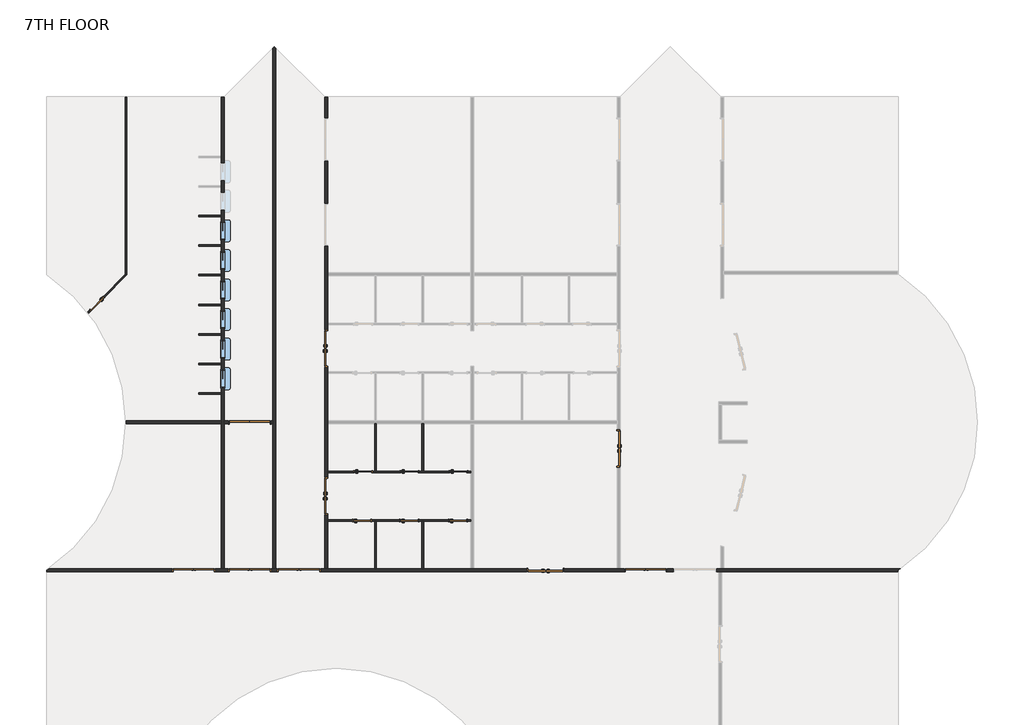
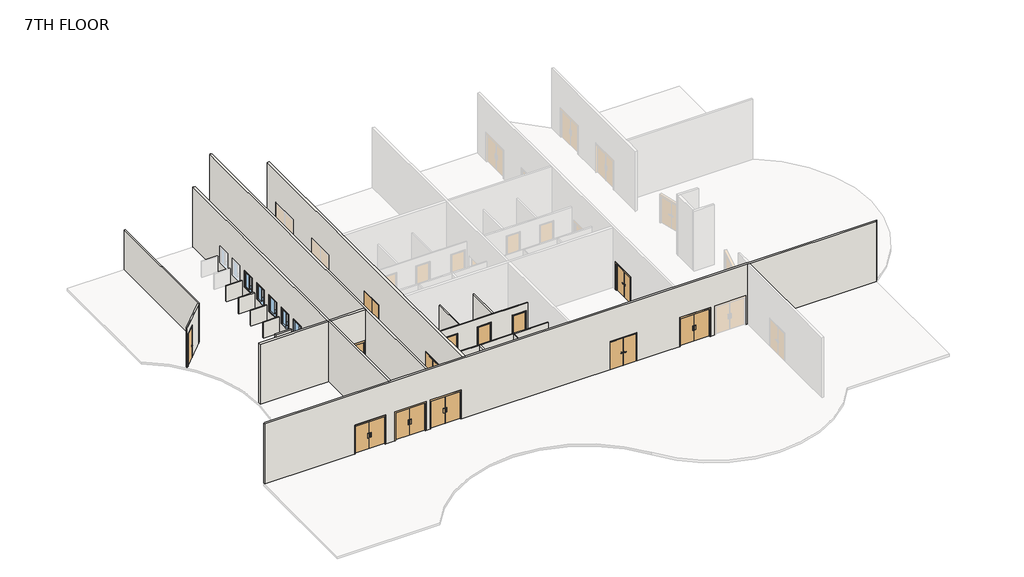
# One storey, part 1 of 2: 20 walls, 16 doors, 6 windows.
"""IFC4 building model written with IfcOpenShell, lengths in millimetres."""

from ifc_helpers import new_model, si_unit, point, frame, frame_2d, origin, place, context, project, spatial, polyline, circle_curve, trimmed, segment, composite_curve, outline, extrude, faceted_brep, transform, mapped, element, save
from ifc_brep_helpers import plane_surface, cylinder_surface, revolved_surface, advanced_brep
from components import door_2f250f70, door_0b13e4d9, door_b3a27a16, door_979b1b8c, door_f8b587be, pass_thru_4x3_19d81059

model = new_model("IFC4")

# Units and contexts
model_context = context("Model", 3, world=origin())
ifc_project = project(units=[si_unit("LENGTHUNIT", "METRE", prefix="MILLI")], contexts=[model_context])

# Site, building, storey
site = spatial("IfcSite", under=ifc_project)
building = spatial("IfcBuilding", under=site)
storey = spatial("IfcBuildingStorey", under=building, Name="7TH FLOOR", Elevation=32004.0)

# Doors
placement = place(None, origin())
door_shape = door_2f250f70(model_context)
element("IfcDoor", 1, ObjectType="Door-Passage-Double-Flush : 72\" x 82\"", at=placement, inside=storey, context=model_context, shape_type="MappedRepresentation", body=[
    mapped(door_shape, transform((14556.3400257, 13109.575, 32004.0), x_axis=(0.0, 1.0, 0.0), y_axis=(-1.0, 0.0, 0.0), z_axis=(0.0, 0.0, 1.0))),
])
element("IfcDoor", 2, ObjectType="Door-Passage-Double-Flush : 72\" x 82\"", at=placement, inside=storey, context=model_context, shape_type="MappedRepresentation", body=[
    mapped(door_shape, transform((14556.3400257, 20729.575, 32004.0), x_axis=(0.0, 1.0, 0.0), y_axis=(-1.0, 0.0, 0.0), z_axis=(0.0, 0.0, 1.0))),
])
element("IfcDoor", 3, ObjectType="Door-Passage-Double-Flush : 72\" x 82\"", at=placement, inside=storey, context=model_context, shape_type="MappedRepresentation", body=[
    mapped(door_shape, transform((25872.8337757, 9305.925, 32004.0), x_axis=(-1.0, 0.0, 0.0), y_axis=(0.0, -1.0, 0.0), z_axis=(0.0, 0.0, 1.0))),
])
element("IfcDoor", 4, ObjectType="Door-Passage-Double-Flush : 72\" x 82\"", at=placement, inside=storey, context=model_context, shape_type="MappedRepresentation", body=[
    mapped(door_shape, transform((29628.0650257, 15571.7875, 32004.0), x_axis=(0.0, -1.0, 0.0), y_axis=(1.0, 0.0, 0.0), z_axis=(0.0, 0.0, 1.0))),
])
door_2_shape = door_0b13e4d9(model_context)
element("IfcDoor", 5, ObjectType="Door-Passage-Double-Flush-Dbl_Acting : 84\" x 84\"", at=placement, inside=storey, context=model_context, shape_type="MappedRepresentation", body=[
    mapped(door_2_shape, transform((13151.4025257, 9293.225, 32004.0), x_axis=(-1.0, 0.0, 0.0), y_axis=(0.0, -1.0, 0.0), z_axis=(0.0, 0.0, 1.0))),
])
door_3_shape = door_b3a27a16(model_context)
element("IfcDoor", 6, ObjectType="Door-Passage-Double-Flush-Dbl_Acting : 84\" x 84\"", at=placement, inside=storey, context=model_context, shape_type="MappedRepresentation", body=[
    mapped(door_3_shape, transform((31033.0025257, 9293.225, 32004.0), x_axis=(1.0, 0.0, 0.0), y_axis=(0.0, 1.0, 0.0), z_axis=(0.0, 0.0, 1.0))),
])
element("IfcDoor", 7, ObjectType="Door-Passage-Double-Flush-Dbl_Acting : 84\" x 84\"", at=placement, inside=storey, context=model_context, shape_type="MappedRepresentation", body=[
    mapped(door_3_shape, transform((10620.375, 9293.225, 32004.0), x_axis=(1.0, 0.0, 0.0), y_axis=(0.0, 1.0, 0.0), z_axis=(0.0, 0.0, 1.0))),
])
element("IfcDoor", 8, ObjectType="Door-Passage-Double-Flush-Dbl_Acting : 84\" x 84\"", at=placement, inside=storey, context=model_context, shape_type="MappedRepresentation", body=[
    mapped(door_3_shape, transform((7730.5724743, 9293.225, 32004.0), x_axis=(1.0, 0.0, 0.0), y_axis=(0.0, 1.0, 0.0), z_axis=(0.0, 0.0, 1.0))),
])
element("IfcDoor", 9, ObjectType="Door-Passage-Double-Flush-Dbl_Acting : 84\" x 84\"", at=placement, inside=storey, context=model_context, shape_type="MappedRepresentation", body=[
    mapped(door_3_shape, transform((10620.375, 16913.225, 32004.0), x_axis=(1.0, 0.0, 0.0), y_axis=(0.0, 1.0, 0.0), z_axis=(0.0, 0.0, 1.0))),
])
door_4_shape = door_979b1b8c(model_context)
element("IfcDoor", 10, ObjectType="Door-Passage-Single-Flush : 36\" x 96\"", at=placement, inside=storey, context=model_context, shape_type="MappedRepresentation", body=[
    mapped(door_4_shape, transform((16456.5775257, 14357.35, 32004.0), x_axis=(1.0, 0.0, 0.0), y_axis=(0.0, 1.0, 0.0), z_axis=(0.0, 0.0, 1.0))),
])
element("IfcDoor", 11, ObjectType="Door-Passage-Single-Flush : 36\" x 96\"", at=placement, inside=storey, context=model_context, shape_type="MappedRepresentation", body=[
    mapped(door_4_shape, transform((18855.2900257, 14357.35, 32004.0), x_axis=(1.0, 0.0, 0.0), y_axis=(0.0, 1.0, 0.0), z_axis=(0.0, 0.0, 1.0))),
])
element("IfcDoor", 12, ObjectType="Door-Passage-Single-Flush : 36\" x 96\"", at=placement, inside=storey, context=model_context, shape_type="MappedRepresentation", body=[
    mapped(door_4_shape, transform((21373.0650257, 14357.35, 32004.0), x_axis=(1.0, 0.0, 0.0), y_axis=(0.0, 1.0, 0.0), z_axis=(0.0, 0.0, 1.0))),
])
element("IfcDoor", 13, ObjectType="Door-Passage-Single-Flush : 36\" x 96\"", at=placement, inside=storey, context=model_context, shape_type="MappedRepresentation", body=[
    mapped(door_4_shape, transform((2731.3607977, 23031.2061406, 32004.0), x_axis=(-0.7071067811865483, -0.7071067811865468, 0.0), y_axis=(0.7071067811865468, -0.7071067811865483, 0.0), z_axis=(0.0, 0.0, 1.0))),
])
door_5_shape = door_f8b587be(model_context)
element("IfcDoor", 14, ObjectType="Door-Passage-Single-Flush : 36\" x 96\"", at=placement, inside=storey, context=model_context, shape_type="MappedRepresentation", body=[
    mapped(door_5_shape, transform((16405.7775257, 11861.8, 32004.0), x_axis=(1.0, 0.0, 0.0), y_axis=(0.0, 1.0, 0.0), z_axis=(0.0, 0.0, 1.0))),
])
element("IfcDoor", 15, ObjectType="Door-Passage-Single-Flush : 36\" x 96\"", at=placement, inside=storey, context=model_context, shape_type="MappedRepresentation", body=[
    mapped(door_5_shape, transform((18836.2400257, 11861.8, 32004.0), x_axis=(1.0, 0.0, 0.0), y_axis=(0.0, 1.0, 0.0), z_axis=(0.0, 0.0, 1.0))),
])
element("IfcDoor", 16, ObjectType="Door-Passage-Single-Flush : 36\" x 96\"", at=placement, inside=storey, context=model_context, shape_type="MappedRepresentation", body=[
    mapped(door_5_shape, transform((21354.0150257, 11861.8, 32004.0), x_axis=(1.0, 0.0, 0.0), y_axis=(0.0, 1.0, 0.0), z_axis=(0.0, 0.0, 1.0))),
])

# Walls
element("IfcWall", 17, ObjectType="SYR_INT_ONE_HOUR", at=placement, inside=storey, context=model_context, shape_type="SweptSolid", body=[
    extrude(outline(polyline([(17066.1775257, 14403.3875), (17066.1775257, 16841.7875), (17145.5525257, 16841.7875), (17145.5525257, 14403.3875), (17066.1775257, 14403.3875)])), frame((0.0, 0.0, 32004.0), z_axis=(0.0, 0.0, 1.0), x_axis=(1.0, 0.0, 0.0)), (0.0, 0.0, 1.0), 3048.0),
])
element("IfcWall", 18, ObjectType="SYR_INT_ONE_HOUR", at=placement, inside=storey, context=model_context, shape_type="SweptSolid", body=[
    extrude(outline(polyline([(19576.0150257, 11815.7625), (19576.0150257, 9377.3625), (19496.6400257, 9377.3625), (19496.6400257, 11815.7625), (19576.0150257, 11815.7625)])), frame((0.0, 0.0, 32004.0), z_axis=(0.0, 0.0, 1.0), x_axis=(1.0, 0.0, 0.0)), (0.0, 0.0, 1.0), 3048.0),
])
element("IfcWall", 19, ObjectType="SYR_INT_ONE_HOUR", at=placement, inside=storey, context=model_context, shape_type="Brep", body=[
    faceted_brep([(14627.7775257, 14403.3875, 35052.0), (17066.1775257, 14403.3875, 35052.0), (17145.5525257, 14403.3875, 35052.0), (19496.6400257, 14403.3875, 35052.0), (19576.0150257, 14403.3875, 35052.0), (22014.4150257, 14403.3875, 35052.0), (22014.4150257, 14403.3875, 32004.0), (21862.0150257, 14403.3875, 32004.0), (21862.0150257, 14403.3875, 34474.15), (20884.1150257, 14403.3875, 34474.15), (20884.1150257, 14403.3875, 32004.0), (19576.0150257, 14403.3875, 32004.0), (19496.6400257, 14403.3875, 32004.0), (19344.2400257, 14403.3875, 32004.0), (19344.2400257, 14403.3875, 34474.15), (18366.3400257, 14403.3875, 34474.15), (18366.3400257, 14403.3875, 32004.0), (17145.5525257, 14403.3875, 32004.0), (17066.1775257, 14403.3875, 32004.0), (16945.5275257, 14403.3875, 32004.0), (16945.5275257, 14403.3875, 34474.15), (15967.6275257, 14403.3875, 34474.15), (15967.6275257, 14403.3875, 32004.0), (14627.7775257, 14403.3875, 32004.0), (22014.4150257, 14324.0125, 35052.0), (14627.7775257, 14324.0125, 35052.0), (14627.7775257, 14324.0125, 32004.0), (15967.6275257, 14324.0125, 32004.0), (15967.6275257, 14324.0125, 34474.15), (16945.5275257, 14324.0125, 34474.15), (16945.5275257, 14324.0125, 32004.0), (18366.3400257, 14324.0125, 32004.0), (18366.3400257, 14324.0125, 34474.15), (19344.2400257, 14324.0125, 34474.15), (19344.2400257, 14324.0125, 32004.0), (20884.1150257, 14324.0125, 32004.0), (20884.1150257, 14324.0125, 34474.15), (21862.0150257, 14324.0125, 34474.15), (21862.0150257, 14324.0125, 32004.0), (22014.4150257, 14324.0125, 32004.0)], [[[0, 1, 2, 3, 4, 5, 6, 7, 8, 9, 10, 11, 12, 13, 14, 15, 16, 17, 18, 19, 20, 21, 22, 23]], [[24, 25, 26, 27, 28, 29, 30, 31, 32, 33, 34, 35, 36, 37, 38, 39]], [[6, 39, 38, 7]], [[26, 23, 22, 27]], [[30, 19, 18, 17, 16, 31]], [[34, 13, 12, 11, 10, 35]], [[5, 4, 3, 2, 1, 0, 25, 24]], [[0, 23, 26, 25]], [[6, 5, 24, 39]], [[29, 20, 19, 30]], [[20, 29, 28, 21]], [[21, 28, 27, 22]], [[14, 13, 34, 33]], [[15, 14, 33, 32]], [[16, 15, 32, 31]], [[37, 8, 7, 38]], [[8, 37, 36, 9]], [[9, 36, 35, 10]]]),
])
element("IfcWall", 20, ObjectType="SYR_INT_ONE_HOUR", at=placement, inside=storey, context=model_context, shape_type="Brep", body=[
    faceted_brep([(14627.7775257, 11895.1375, 35052.0), (22014.4150257, 11895.1375, 35052.0), (22014.4150257, 11895.1375, 32004.0), (21842.9650257, 11895.1375, 32004.0), (21842.9650257, 11895.1375, 34474.15), (20865.0650257, 11895.1375, 34474.15), (20865.0650257, 11895.1375, 32004.0), (19325.1900257, 11895.1375, 32004.0), (19325.1900257, 11895.1375, 34474.15), (18347.2900257, 11895.1375, 34474.15), (18347.2900257, 11895.1375, 32004.0), (16894.7275257, 11895.1375, 32004.0), (16894.7275257, 11895.1375, 34474.15), (15916.8275257, 11895.1375, 34474.15), (15916.8275257, 11895.1375, 32004.0), (14627.7775257, 11895.1375, 32004.0), (22014.4150257, 11815.7625, 35052.0), (19576.0150257, 11815.7625, 35052.0), (19496.6400257, 11815.7625, 35052.0), (17145.5525257, 11815.7625, 35052.0), (17066.1775257, 11815.7625, 35052.0), (14627.7775257, 11815.7625, 35052.0), (14627.7775257, 11815.7625, 32004.0), (15916.8275257, 11815.7625, 32004.0), (15916.8275257, 11815.7625, 34474.15), (16894.7275257, 11815.7625, 34474.15), (16894.7275257, 11815.7625, 32004.0), (17066.1775257, 11815.7625, 32004.0), (17145.5525257, 11815.7625, 32004.0), (18347.2900257, 11815.7625, 32004.0), (18347.2900257, 11815.7625, 34474.15), (19325.1900257, 11815.7625, 34474.15), (19325.1900257, 11815.7625, 32004.0), (19496.6400257, 11815.7625, 32004.0), (19576.0150257, 11815.7625, 32004.0), (20865.0650257, 11815.7625, 32004.0), (20865.0650257, 11815.7625, 34474.15), (21842.9650257, 11815.7625, 34474.15), (21842.9650257, 11815.7625, 32004.0), (22014.4150257, 11815.7625, 32004.0)], [[[0, 1, 2, 3, 4, 5, 6, 7, 8, 9, 10, 11, 12, 13, 14, 15]], [[16, 17, 18, 19, 20, 21, 22, 23, 24, 25, 26, 27, 28, 29, 30, 31, 32, 33, 34, 35, 36, 37, 38, 39]], [[2, 39, 38, 3]], [[22, 15, 14, 23]], [[26, 11, 10, 29, 28, 27]], [[32, 7, 6, 35, 34, 33]], [[1, 0, 21, 20, 19, 18, 17, 16]], [[0, 15, 22, 21]], [[2, 1, 16, 39]], [[25, 12, 11, 26]], [[12, 25, 24, 13]], [[13, 24, 23, 14]], [[31, 8, 7, 32]], [[8, 31, 30, 9]], [[9, 30, 29, 10]], [[37, 4, 3, 38]], [[4, 37, 36, 5]], [[5, 36, 35, 6]]]),
])
element("IfcWall", 21, ObjectType="SYR_INT_ONE_HOUR", at=placement, inside=storey, context=model_context, shape_type="SweptSolid", body=[
    extrude(outline(polyline([(17066.1775257, 9377.3625), (17066.1775257, 11815.7625), (17145.5525257, 11815.7625), (17145.5525257, 9377.3625), (17066.1775257, 9377.3625)])), frame((0.0, 0.0, 32004.0), z_axis=(0.0, 0.0, 1.0), x_axis=(1.0, 0.0, 0.0)), (0.0, 0.0, 1.0), 3048.0),
])
element("IfcWall", 22, ObjectType="SYR_INT_ONE_HOUR", at=placement, inside=storey, context=model_context, shape_type="SweptSolid", body=[
    extrude(outline(polyline([(19576.0150257, 16841.7875), (19576.0150257, 14403.3875), (19496.6400257, 14403.3875), (19496.6400257, 16841.7875), (19576.0150257, 16841.7875)])), frame((0.0, 0.0, 32004.0), z_axis=(0.0, 0.0, 1.0), x_axis=(1.0, 0.0, 0.0)), (0.0, 0.0, 1.0), 3048.0),
])
element("IfcWall", 23, ObjectType="SYR_INT_ONE_HOUR", at=placement, inside=storey, context=model_context, shape_type="SweptSolid", body=[
    extrude(outline(polyline([(7979.2710938, 18443.575), (9144.0, 18443.575), (9144.0, 18364.2), (7979.2710938, 18364.2), (7979.2710938, 18443.575)])), frame((0.0, 0.0, 32004.0), z_axis=(0.0, 0.0, 1.0), x_axis=(1.0, 0.0, 0.0)), (0.0, 0.0, 1.0), 1219.2),
])
element("IfcWall", 24, ObjectType="SYR_INT_ONE_HOUR", at=placement, inside=storey, context=model_context, shape_type="SweptSolid", body=[
    extrude(outline(polyline([(7979.2710938, 19967.575), (9144.0, 19967.575), (9144.0, 19888.2), (7979.2710938, 19888.2), (7979.2710938, 19967.575)])), frame((0.0, 0.0, 32004.0), z_axis=(0.0, 0.0, 1.0), x_axis=(1.0, 0.0, 0.0)), (0.0, 0.0, 1.0), 1219.2),
])
element("IfcWall", 25, ObjectType="SYR_INT_ONE_HOUR", at=placement, inside=storey, context=model_context, shape_type="SweptSolid", body=[
    extrude(outline(polyline([(7979.2710938, 21491.575), (9144.0, 21491.575), (9144.0, 21412.2), (7979.2710938, 21412.2), (7979.2710938, 21491.575)])), frame((0.0, 0.0, 32004.0), z_axis=(0.0, 0.0, 1.0), x_axis=(1.0, 0.0, 0.0)), (0.0, 0.0, 1.0), 1219.2),
])
element("IfcWall", 26, ObjectType="SYR_INT_ONE_HOUR", at=placement, inside=storey, context=model_context, shape_type="SweptSolid", body=[
    extrude(outline(polyline([(7979.2710938, 23015.575), (9144.0, 23015.575), (9144.0, 22936.2), (7979.2710938, 22936.2), (7979.2710938, 23015.575)])), frame((0.0, 0.0, 32004.0), z_axis=(0.0, 0.0, 1.0), x_axis=(1.0, 0.0, 0.0)), (0.0, 0.0, 1.0), 1219.2),
])
element("IfcWall", 27, ObjectType="SYR_INT_ONE_HOUR", at=placement, inside=storey, context=model_context, shape_type="SweptSolid", body=[
    extrude(outline(polyline([(7979.2710938, 24539.575), (9144.0, 24539.575), (9144.0, 24460.2), (7979.2710938, 24460.2), (7979.2710938, 24539.575)])), frame((0.0, 0.0, 32004.0), z_axis=(0.0, 0.0, 1.0), x_axis=(1.0, 0.0, 0.0)), (0.0, 0.0, 1.0), 1219.2),
])
element("IfcWall", 28, ObjectType="SYR_INT_ONE_HOUR", at=placement, inside=storey, context=model_context, shape_type="SweptSolid", body=[
    extrude(outline(polyline([(7979.2710938, 26063.575), (9144.0, 26063.575), (9144.0, 25984.2), (7979.2710938, 25984.2), (7979.2710938, 26063.575)])), frame((0.0, 0.0, 32004.0), z_axis=(0.0, 0.0, 1.0), x_axis=(1.0, 0.0, 0.0)), (0.0, 0.0, 1.0), 1219.2),
])
element("IfcWall", 29, ObjectType="SYR_INT_ONE_HOUR", at=placement, inside=storey, context=model_context, shape_type="SweptSolid", body=[
    extrude(outline(polyline([(7979.2710938, 27587.575), (9144.0, 27587.575), (9144.0, 27508.2), (7979.2710938, 27508.2), (7979.2710938, 27587.575)])), frame((0.0, 0.0, 32004.0), z_axis=(0.0, 0.0, 1.0), x_axis=(1.0, 0.0, 0.0)), (0.0, 0.0, 1.0), 1219.2),
])
element("IfcWall", 30, ObjectType="SYR_INT_ONE_HOUR", at=placement, inside=storey, context=model_context, shape_type="Brep", body=[
    faceted_brep([(4209.0224132, 33683.575, 32004.0), (4209.0224132, 24556.0141008, 32004.0), (4209.0224132, 24443.7608992, 32004.0), (4209.0224132, 24443.7608992, 35052.0), (4209.0224132, 24556.0141008, 35052.0), (4209.0224132, 33683.575, 35052.0), (4288.3974132, 33683.575, 32004.0), (4288.3974132, 33683.575, 35052.0), (4288.3974132, 24523.1358992, 35052.0), (4288.3974132, 24523.1358992, 32004.0)], [[[0, 1, 2, 3, 4, 5]], [[6, 7, 8, 9]], [[2, 1, 0, 6, 9]], [[5, 4, 3, 8, 7]], [[3, 2, 9, 8]], [[0, 5, 7, 6]]]),
])
element("IfcWall", 31, ObjectType="SYR_INT_ONE_HOUR", at=placement, inside=storey, context=model_context, shape_type="AdvancedBrep", body=[
    advanced_brep(
    [(2260.5955581, 22607.5872456, 35052.0), (4209.0224132, 24556.0141008, 35052.0), (4209.0224132, 24556.0141008, 32004.0), (3053.527486, 23400.5191735, 32004.0), (3053.527486, 23400.5191735, 34474.15), (2362.0477647, 22709.0394522, 34474.15), (2362.0477647, 22709.0394522, 32004.0), (2260.5955581, 22607.5872456, 32004.0), (4209.0224132, 24443.7608992, 35052.0), (2310.04482, 22544.783306, 35052.0), (2310.04482, 22544.783306, 32004.0), (2418.1743655, 22652.9128515, 32004.0), (2418.1743655, 22652.9128515, 34474.15), (3109.6540868, 23344.3925728, 34474.15), (3109.6540868, 23344.3925728, 32004.0), (4209.0224132, 24443.7608992, 32004.0)],
    [
        (0, 1),
        (1, 2),
        (2, 3),
        (3, 4),
        (4, 5),
        (5, 6),
        (6, 7),
        (7, 0),
        (8, 9),
        (9, 10),
        (10, 11),
        (11, 12),
        (12, 13),
        (13, 14),
        (14, 15),
        (15, 8),
        (2, 15),
        (14, 3),
        (10, 7, circle_curve(frame((-4898.9611805, 16919.575, 32004.0), z_axis=(0.0, 0.0, 1.0), x_axis=(1.0, 0.0, 0.0)), 9144.0)),
        (6, 11),
        (0, 9, circle_curve(frame((-4898.9611805, 16919.575, 35052.0), z_axis=(0.0, 0.0, -1.0), x_axis=(1.0, 0.0, 0.0)), 9144.0)),
        (8, 1),
        (5, 12),
        (4, 13),
    ],
    [
        plane_surface(frame((4220.6466129, 24567.6383004, 32004.0), z_axis=(-0.7071067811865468, 0.7071067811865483, 0.0), x_axis=(-0.7071067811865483, -0.7071067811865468, 0.0))),
        plane_surface(frame((4276.7732136, 24511.5116996, 32004.0), z_axis=(0.7071067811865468, -0.7071067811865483, 0.0), x_axis=(0.7071067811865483, 0.7071067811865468, 0.0))),
        plane_surface(frame((4220.6466129, 24567.6383004, 32004.0), z_axis=(0.0, 0.0, -1.0), x_axis=(0.7071067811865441, -0.7071067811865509, 0.0))),
        plane_surface(frame((2146.5216178, 22493.5133053, 35052.0), z_axis=(0.0, 0.0, 1.0000000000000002), x_axis=(0.7071067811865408, -0.7071067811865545, 0.0))),
        plane_surface(frame((4209.0224132, 33778.5769531, 32004.0), z_axis=(1.0, 0.0, 0.0), x_axis=(0.0, -1.0, 0.0))),
        plane_surface(frame((1284.4170302, 23786.6701867, 32004.0), z_axis=(0.7071067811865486, 0.7071067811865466, 0.0), x_axis=(0.7071067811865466, -0.7071067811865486, 0.0))),
        plane_surface(frame((1284.4170302, 23786.6701867, 34474.15), z_axis=(0.0, 0.0, -1.0), x_axis=(0.7071067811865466, -0.7071067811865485, 0.0))),
        plane_surface(frame((1975.8967515, 24478.1499081, 34474.15), z_axis=(-0.7071067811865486, -0.7071067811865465, 0.0), x_axis=(0.7071067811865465, -0.7071067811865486, 0.0))),
        revolved_surface(polyline([(4245.0388195, 16919.575, 35052.0), (4245.0388195, 16919.575, 32004.0)]), (-4898.9611805, 16919.575, 0.0), (0.0, 0.0, 1.0)),
    ],
    [
        (0, [[1, 2, 3, 4, 5, 6, 7, 8]]),
        (1, [[9, 10, 11, 12, 13, 14, 15, 16]]),
        (2, [[17, -15, 18, -3]]),
        (2, [[19, -7, 20, -11]]),
        (3, [[-1, 21, -9, 22]]),
        (4, [[-2, -22, -16, -17]]),
        (5, [[23, -12, -20, -6]]),
        (6, [[-23, -5, 24, -13]]),
        (7, [[-24, -4, -18, -14]]),
        (8, [[-8, -19, -10, -21]]),
    ],
),
])
element("IfcWall", 32, ObjectType="SYR_INT_TWO_HOUR", at=placement, inside=storey, context=model_context, shape_type="AdvancedBrep", body=[
    advanced_brep(
    [(270.9292057, 9377.3625, 36576.0), (9144.0, 9377.3625, 36576.0), (9299.575, 9377.3625, 36576.0), (11808.1012629, 9377.3625, 36576.0), (11963.6762629, 9377.3625, 36576.0), (14472.2025257, 9377.3625, 36576.0), (14627.7775257, 9377.3625, 36576.0), (22014.4150257, 9377.3625, 36576.0), (22169.9900257, 9377.3625, 36576.0), (29556.6275257, 9377.3625, 36576.0), (29712.2025257, 9377.3625, 36576.0), (34884.8300515, 9377.3625, 36576.0), (35040.4050515, 9377.3625, 36576.0), (44144.1842571, 9377.3625, 36576.0), (44144.1842571, 9377.3625, 32004.0), (35040.4050515, 9377.3625, 32004.0), (34884.8300515, 9377.3625, 32004.0), (34681.6300515, 9377.3625, 32004.0), (34681.6300515, 9377.3625, 34239.2), (32446.4300515, 9377.3625, 34239.2), (32446.4300515, 9377.3625, 32004.0), (32150.6025257, 9377.3625, 32004.0), (32150.6025257, 9377.3625, 34239.2), (29915.4025257, 9377.3625, 34239.2), (29915.4025257, 9377.3625, 32004.0), (29712.2025257, 9377.3625, 32004.0), (29556.6275257, 9377.3625, 32004.0), (26838.0337757, 9377.3625, 32004.0), (26838.0337757, 9377.3625, 34188.4), (24907.6337757, 9377.3625, 34188.4), (24907.6337757, 9377.3625, 32004.0), (22169.9900257, 9377.3625, 32004.0), (22014.4150257, 9377.3625, 32004.0), (19576.0150257, 9377.3625, 32004.0), (19496.6400257, 9377.3625, 32004.0), (17145.5525257, 9377.3625, 32004.0), (17066.1775257, 9377.3625, 32004.0), (14627.7775257, 9377.3625, 32004.0), (14472.2025257, 9377.3625, 32004.0), (14269.0025257, 9377.3625, 32004.0), (14269.0025257, 9377.3625, 34239.2), (12033.8025257, 9377.3625, 34239.2), (12033.8025257, 9377.3625, 32004.0), (11963.6762629, 9377.3625, 32004.0), (11808.1012629, 9377.3625, 32004.0), (11737.975, 9377.3625, 32004.0), (11737.975, 9377.3625, 34239.2), (9502.775, 9377.3625, 34239.2), (9502.775, 9377.3625, 32004.0), (9299.575, 9377.3625, 32004.0), (9144.0, 9377.3625, 32004.0), (8848.1724743, 9377.3625, 32004.0), (8848.1724743, 9377.3625, 34239.2), (6612.9724743, 9377.3625, 34239.2), (6612.9724743, 9377.3625, 32004.0), (270.9292057, 9377.3625, 32004.0), (155.575, 9221.7875, 36576.0), (155.575, 9221.7875, 32004.0), (6612.9724743, 9221.7875, 32004.0), (6612.9724743, 9221.7875, 34239.2), (8848.1724743, 9221.7875, 34239.2), (8848.1724743, 9221.7875, 32004.0), (9502.775, 9221.7875, 32004.0), (9502.775, 9221.7875, 34239.2), (11737.975, 9221.7875, 34239.2), (11737.975, 9221.7875, 32004.0), (12033.8025257, 9221.7875, 32004.0), (12033.8025257, 9221.7875, 34239.2), (14269.0025257, 9221.7875, 34239.2), (14269.0025257, 9221.7875, 32004.0), (24907.6337757, 9221.7875, 32004.0), (24907.6337757, 9221.7875, 34188.4), (26838.0337757, 9221.7875, 34188.4), (26838.0337757, 9221.7875, 32004.0), (29915.4025257, 9221.7875, 32004.0), (29915.4025257, 9221.7875, 34239.2), (32150.6025257, 9221.7875, 34239.2), (32150.6025257, 9221.7875, 32004.0), (32446.4300515, 9221.7875, 32004.0), (32446.4300515, 9221.7875, 34239.2), (34681.6300515, 9221.7875, 34239.2), (34681.6300515, 9221.7875, 32004.0), (34803.3714577, 9221.7875, 32004.0), (34958.9464577, 9221.7875, 32004.0), (44028.8300515, 9221.7875, 32004.0), (44028.8300515, 9221.7875, 36576.0), (34958.9464577, 9221.7875, 36576.0), (34803.3714577, 9221.7875, 36576.0), (44028.8300515, 9299.575, 32004.0), (155.575, 9299.575, 32004.0), (155.575, 9299.575, 36576.0), (44028.8300515, 9299.575, 36576.0)],
    [
        (0, 1),
        (1, 2),
        (2, 3),
        (3, 4),
        (4, 5),
        (5, 6),
        (6, 7),
        (7, 8),
        (8, 9),
        (9, 10),
        (10, 11),
        (11, 12),
        (12, 13),
        (13, 14),
        (14, 15),
        (15, 16),
        (16, 17),
        (17, 18),
        (18, 19),
        (19, 20),
        (20, 21),
        (21, 22),
        (22, 23),
        (23, 24),
        (24, 25),
        (25, 26),
        (26, 27),
        (27, 28),
        (28, 29),
        (29, 30),
        (30, 31),
        (31, 32),
        (32, 33),
        (33, 34),
        (34, 35),
        (35, 36),
        (36, 37),
        (37, 38),
        (38, 39),
        (39, 40),
        (40, 41),
        (41, 42),
        (42, 43),
        (43, 44),
        (44, 45),
        (45, 46),
        (46, 47),
        (47, 48),
        (48, 49),
        (49, 50),
        (50, 51),
        (51, 52),
        (52, 53),
        (53, 54),
        (54, 55),
        (55, 0),
        (56, 57),
        (57, 58),
        (58, 59),
        (59, 60),
        (60, 61),
        (61, 62),
        (62, 63),
        (63, 64),
        (64, 65),
        (65, 66),
        (66, 67),
        (67, 68),
        (68, 69),
        (69, 70),
        (70, 71),
        (71, 72),
        (72, 73),
        (73, 74),
        (74, 75),
        (75, 76),
        (76, 77),
        (77, 78),
        (78, 79),
        (79, 80),
        (80, 81),
        (81, 82),
        (82, 83),
        (83, 84),
        (84, 85),
        (85, 86),
        (86, 87),
        (87, 56),
        (20, 78),
        (77, 21),
        (81, 17),
        (14, 88, circle_curve(frame((38974.293871, 16919.575, 32004.0), z_axis=(0.0, 0.0, -1.0), x_axis=(0.8333333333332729, 0.5527707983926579, 0.0)), 9144.0)),
        (88, 84),
        (24, 74),
        (73, 27),
        (42, 66),
        (65, 45),
        (69, 39),
        (30, 70),
        (48, 62),
        (61, 51),
        (54, 58),
        (57, 89),
        (89, 55, circle_curve(frame((-4898.9611805, 16919.575, 32004.0), z_axis=(0.0, 0.0, 1.0), x_axis=(0.8333333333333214, 0.5527707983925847, 0.0)), 9144.0)),
        (0, 90, circle_curve(frame((-4898.9611805, 16919.575, 36576.0), z_axis=(0.0, 0.0, -1.0), x_axis=(0.8333333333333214, 0.5527707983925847, 0.0)), 9144.0)),
        (90, 56),
        (85, 91),
        (91, 13, circle_curve(frame((38974.293871, 16919.575, 36576.0), z_axis=(0.0, 0.0, 1.0), x_axis=(0.8333333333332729, 0.5527707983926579, 0.0)), 9144.0)),
        (19, 79),
        (18, 80),
        (76, 22),
        (75, 23),
        (41, 67),
        (40, 68),
        (64, 46),
        (63, 47),
        (60, 52),
        (59, 53),
        (29, 71),
        (28, 72),
        (89, 90),
        (91, 88),
    ],
    [
        plane_surface(frame((44028.8300515, 9377.3625, 32004.0), z_axis=(0.0, 1.0, 0.0), x_axis=(-1.0, 0.0, 0.0))),
        plane_surface(frame((44028.8300515, 9221.7875, 32004.0), z_axis=(0.0, -1.0, 0.0), x_axis=(1.0, 0.0, 0.0))),
        plane_surface(frame((44305.118871, 9377.3625, 32004.0), z_axis=(0.0, 0.0, -1.0), x_axis=(0.0, -1.0, 0.0))),
        plane_surface(frame((0.0, 9377.3625, 36576.0), z_axis=(0.0, 0.0, 1.0), x_axis=(0.0, -1.0, 0.0))),
        plane_surface(frame((32446.4300515, 10745.7875, 32004.0), z_axis=(1.0, 0.0, 0.0), x_axis=(0.0, -1.0, 0.0))),
        plane_surface(frame((32446.4300515, 10745.7875, 34239.2), z_axis=(0.0, 0.0, -1.0), x_axis=(0.0, -1.0, 0.0))),
        plane_surface(frame((34681.6300515, 10745.7875, 34239.2), z_axis=(-1.0, 0.0, 0.0), x_axis=(0.0, -1.0, 0.0))),
        plane_surface(frame((32150.6025257, 7697.7875, 32004.0), z_axis=(-1.0, 0.0, 0.0), x_axis=(0.0, 1.0, 0.0))),
        plane_surface(frame((32150.6025257, 7697.7875, 34239.2), z_axis=(0.0, 0.0, -1.0), x_axis=(0.0, 1.0, 0.0))),
        plane_surface(frame((29915.4025257, 7697.7875, 34239.2), z_axis=(1.0, 0.0, 0.0), x_axis=(0.0, 1.0, 0.0))),
        plane_surface(frame((12033.8025257, 10745.7875, 32004.0), z_axis=(1.0, 0.0, 0.0), x_axis=(0.0, -1.0, 0.0))),
        plane_surface(frame((12033.8025257, 10745.7875, 34239.2), z_axis=(0.0, 0.0, -1.0), x_axis=(0.0, -1.0, 0.0))),
        plane_surface(frame((14269.0025257, 10745.7875, 34239.2), z_axis=(-1.0, 0.0, 0.0), x_axis=(0.0, -1.0, 0.0))),
        plane_surface(frame((11737.975, 7697.7875, 32004.0), z_axis=(-1.0, 0.0, 0.0), x_axis=(0.0, 1.0, 0.0))),
        plane_surface(frame((11737.975, 7697.7875, 34239.2), z_axis=(0.0, 0.0, -1.0), x_axis=(0.0, 1.0, 0.0))),
        plane_surface(frame((9502.775, 7697.7875, 34239.2), z_axis=(1.0, 0.0, 0.0), x_axis=(0.0, 1.0, 0.0))),
        plane_surface(frame((8848.1724743, 7697.7875, 32004.0), z_axis=(-1.0, 0.0, 0.0), x_axis=(0.0, 1.0, 0.0))),
        plane_surface(frame((8848.1724743, 7697.7875, 34239.2), z_axis=(0.0, 0.0, -1.0), x_axis=(0.0, 1.0, 0.0))),
        plane_surface(frame((6612.9724743, 7697.7875, 34239.2), z_axis=(1.0, 0.0, 0.0), x_axis=(0.0, 1.0, 0.0))),
        plane_surface(frame((24907.6337757, 10901.3625, 32004.0), z_axis=(1.0, 0.0, 0.0), x_axis=(0.0, -1.0, 0.0))),
        plane_surface(frame((24907.6337757, 10901.3625, 34188.4), z_axis=(0.0, 0.0, -1.0), x_axis=(0.0, -1.0, 0.0))),
        plane_surface(frame((26838.0337757, 10901.3625, 34188.4), z_axis=(-1.0, 0.0, 0.0), x_axis=(0.0, -1.0, 0.0))),
        revolved_surface(polyline([(2721.0388194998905, 21974.111180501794, 36576.0), (2721.0388194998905, 21974.111180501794, 32004.0)]), (-4898.9611805, 16919.575, 31775.4), (0.0, 0.0, 1.0)),
        plane_surface(frame((155.575, -12852.9844355, 31775.4), z_axis=(-1.0, 0.0, 0.0), x_axis=(0.0, -1.0, 0.0))),
        cylinder_surface(frame((38974.293871, 16919.575, 31775.4), z_axis=(0.0, 0.0, 1.0), x_axis=(0.8333333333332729, 0.5527707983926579, 0.0)), 9144.0),
        plane_surface(frame((44028.8300515, -12852.9844355, 31775.4), z_axis=(1.0, 0.0, 0.0), x_axis=(0.0, 1.0, 0.0))),
    ],
    [
        (0, [[1, 2, 3, 4, 5, 6, 7, 8, 9, 10, 11, 12, 13, 14, 15, 16, 17, 18, 19, 20, 21, 22, 23, 24, 25, 26, 27, 28, 29, 30, 31, 32, 33, 34, 35, 36, 37, 38, 39, 40, 41, 42, 43, 44, 45, 46, 47, 48, 49, 50, 51, 52, 53, 54, 55, 56]]),
        (1, [[57, 58, 59, 60, 61, 62, 63, 64, 65, 66, 67, 68, 69, 70, 71, 72, 73, 74, 75, 76, 77, 78, 79, 80, 81, 82, 83, 84, 85, 86, 87, 88]]),
        (2, [[89, -78, 90, -21]]),
        (2, [[91, -17, -16, -15, 92, 93, -84, -83, -82]]),
        (2, [[94, -74, 95, -27, -26, -25]]),
        (2, [[96, -66, 97, -45, -44, -43]]),
        (2, [[98, -39, -38, -37, -36, -35, -34, -33, -32, -31, 99, -70]]),
        (2, [[100, -62, 101, -51, -50, -49]]),
        (2, [[-55, 102, -58, 103, 104]]),
        (3, [[-13, -12, -11, -10, -9, -8, -7, -6, -5, -4, -3, -2, -1, 105, 106, -88, -87, -86, 107, 108]]),
        (4, [[109, -79, -89, -20]]),
        (5, [[-109, -19, 110, -80]]),
        (6, [[-110, -18, -91, -81]]),
        (7, [[111, -22, -90, -77]]),
        (8, [[-111, -76, 112, -23]]),
        (9, [[-112, -75, -94, -24]]),
        (10, [[113, -67, -96, -42]]),
        (11, [[-113, -41, 114, -68]]),
        (12, [[-114, -40, -98, -69]]),
        (13, [[115, -46, -97, -65]]),
        (14, [[-115, -64, 116, -47]]),
        (15, [[-116, -63, -100, -48]]),
        (16, [[117, -52, -101, -61]]),
        (17, [[-117, -60, 118, -53]]),
        (18, [[-118, -59, -102, -54]]),
        (19, [[119, -71, -99, -30]]),
        (20, [[-119, -29, 120, -72]]),
        (21, [[-120, -28, -95, -73]]),
        (22, [[-56, -104, 121, -105]]),
        (23, [[-57, -106, -121, -103]]),
        (24, [[-14, -108, 122, -92]]),
        (25, [[-85, -93, -122, -107]]),
    ],
),
])
element("IfcWall", 33, ObjectType="SYR_INT_TWO_HOUR", at=placement, inside=storey, context=model_context, shape_type="Brep", body=[
    faceted_brep([(9144.0, 33683.575, 32004.0), (9144.0, 30635.575, 32004.0), (9144.0, 30556.2, 32004.0), (9144.0, 29111.575, 32004.0), (9144.0, 29032.2, 32004.0), (9144.0, 27587.575, 32004.0), (9144.0, 27508.2, 32004.0), (9144.0, 26063.575, 32004.0), (9144.0, 25984.2, 32004.0), (9144.0, 24539.575, 32004.0), (9144.0, 24460.2, 32004.0), (9144.0, 23015.575, 32004.0), (9144.0, 22936.2, 32004.0), (9144.0, 21491.575, 32004.0), (9144.0, 21412.2, 32004.0), (9144.0, 19967.575, 32004.0), (9144.0, 19888.2, 32004.0), (9144.0, 18443.575, 32004.0), (9144.0, 18364.2, 32004.0), (9144.0, 16997.3625, 32004.0), (9144.0, 16841.7875, 32004.0), (9144.0, 9377.3625, 32004.0), (9144.0, 9377.3625, 36576.0), (9144.0, 16841.7875, 36576.0), (9144.0, 16997.3625, 36576.0), (9144.0, 33683.575, 36576.0), (9144.0, 19623.0875, 34137.6), (9144.0, 18708.6875, 34137.6), (9144.0, 18708.6875, 32918.4), (9144.0, 19623.0875, 32918.4), (9144.0, 21147.0875, 34137.6), (9144.0, 20232.6875, 34137.6), (9144.0, 20232.6875, 32918.4), (9144.0, 21147.0875, 32918.4), (9144.0, 22671.0875, 34137.6), (9144.0, 21756.6875, 34137.6), (9144.0, 21756.6875, 32918.4), (9144.0, 22671.0875, 32918.4), (9144.0, 24195.0875, 34137.6), (9144.0, 23280.6875, 34137.6), (9144.0, 23280.6875, 32918.4), (9144.0, 24195.0875, 32918.4), (9144.0, 25719.0875, 34137.6), (9144.0, 24804.6875, 34137.6), (9144.0, 24804.6875, 32918.4), (9144.0, 25719.0875, 32918.4), (9144.0, 27243.0875, 34137.6), (9144.0, 26328.6875, 34137.6), (9144.0, 26328.6875, 32918.4), (9144.0, 27243.0875, 32918.4), (9144.0, 28767.0875, 34137.6), (9144.0, 27852.6875, 34137.6), (9144.0, 27852.6875, 32918.4), (9144.0, 28767.0875, 32918.4), (9144.0, 30291.0875, 34137.6), (9144.0, 29376.6875, 34137.6), (9144.0, 29376.6875, 32918.4), (9144.0, 30291.0875, 32918.4), (9299.575, 33683.575, 32004.0), (9299.575, 33683.575, 36576.0), (9299.575, 16997.3625, 36576.0), (9299.575, 16841.7875, 36576.0), (9299.575, 9377.3625, 36576.0), (9299.575, 9377.3625, 32004.0), (9299.575, 16841.7875, 32004.0), (9299.575, 16997.3625, 32004.0), (9299.575, 19623.0875, 34137.6), (9299.575, 19623.0875, 32918.4), (9299.575, 18708.6875, 32918.4), (9299.575, 18708.6875, 34137.6), (9299.575, 21147.0875, 34137.6), (9299.575, 21147.0875, 32918.4), (9299.575, 20232.6875, 32918.4), (9299.575, 20232.6875, 34137.6), (9299.575, 22671.0875, 34137.6), (9299.575, 22671.0875, 32918.4), (9299.575, 21756.6875, 32918.4), (9299.575, 21756.6875, 34137.6), (9299.575, 24195.0875, 34137.6), (9299.575, 24195.0875, 32918.4), (9299.575, 23280.6875, 32918.4), (9299.575, 23280.6875, 34137.6), (9299.575, 25719.0875, 34137.6), (9299.575, 25719.0875, 32918.4), (9299.575, 24804.6875, 32918.4), (9299.575, 24804.6875, 34137.6), (9299.575, 27243.0875, 34137.6), (9299.575, 27243.0875, 32918.4), (9299.575, 26328.6875, 32918.4), (9299.575, 26328.6875, 34137.6), (9299.575, 28767.0875, 34137.6), (9299.575, 28767.0875, 32918.4), (9299.575, 27852.6875, 32918.4), (9299.575, 27852.6875, 34137.6), (9299.575, 30291.0875, 34137.6), (9299.575, 30291.0875, 32918.4), (9299.575, 29376.6875, 32918.4), (9299.575, 29376.6875, 34137.6)], [[[0, 1, 2, 3, 4, 5, 6, 7, 8, 9, 10, 11, 12, 13, 14, 15, 16, 17, 18, 19, 20, 21, 22, 23, 24, 25], [26, 27, 28, 29], [30, 31, 32, 33], [34, 35, 36, 37], [38, 39, 40, 41], [42, 43, 44, 45], [46, 47, 48, 49], [50, 51, 52, 53], [54, 55, 56, 57]], [[58, 59, 60, 61, 62, 63, 64, 65], [66, 67, 68, 69], [70, 71, 72, 73], [74, 75, 76, 77], [78, 79, 80, 81], [82, 83, 84, 85], [86, 87, 88, 89], [90, 91, 92, 93], [94, 95, 96, 97]], [[21, 20, 19, 18, 17, 16, 15, 14, 13, 12, 11, 10, 9, 8, 7, 6, 5, 4, 3, 2, 1, 0, 58, 65, 64, 63]], [[25, 24, 23, 22, 62, 61, 60, 59]], [[22, 21, 63, 62]], [[67, 66, 26, 29]], [[68, 67, 29, 28]], [[69, 68, 28, 27]], [[66, 69, 27, 26]], [[71, 70, 30, 33]], [[72, 71, 33, 32]], [[73, 72, 32, 31]], [[70, 73, 31, 30]], [[75, 74, 34, 37]], [[76, 75, 37, 36]], [[77, 76, 36, 35]], [[74, 77, 35, 34]], [[79, 78, 38, 41]], [[80, 79, 41, 40]], [[81, 80, 40, 39]], [[78, 81, 39, 38]], [[83, 82, 42, 45]], [[84, 83, 45, 44]], [[85, 84, 44, 43]], [[82, 85, 43, 42]], [[87, 86, 46, 49]], [[88, 87, 49, 48]], [[89, 88, 48, 47]], [[86, 89, 47, 46]], [[91, 90, 50, 53]], [[92, 91, 53, 52]], [[93, 92, 52, 51]], [[90, 93, 51, 50]], [[95, 94, 54, 57]], [[96, 95, 57, 56]], [[97, 96, 56, 55]], [[94, 97, 55, 54]], [[0, 25, 59, 58]]]),
])
element("IfcWall", 34, ObjectType="SYR_INT_TWO_HOUR", at=placement, inside=storey, context=model_context, shape_type="Brep", body=[
    faceted_brep([(14472.2025257, 9377.3625, 36576.0), (14472.2025257, 33683.575, 36576.0), (14472.2025257, 33683.575, 32004.0), (14472.2025257, 32616.775, 32004.0), (14472.2025257, 32616.775, 34239.2), (14472.2025257, 30381.575, 34239.2), (14472.2025257, 30381.575, 32004.0), (14472.2025257, 28219.4, 32004.0), (14472.2025257, 28219.4, 34239.2), (14472.2025257, 25984.2, 34239.2), (14472.2025257, 25984.2, 32004.0), (14472.2025257, 21694.775, 32004.0), (14472.2025257, 21694.775, 34188.4), (14472.2025257, 19764.375, 34188.4), (14472.2025257, 19764.375, 32004.0), (14472.2025257, 14074.775, 32004.0), (14472.2025257, 14074.775, 34188.4), (14472.2025257, 12144.375, 34188.4), (14472.2025257, 12144.375, 32004.0), (14472.2025257, 9377.3625, 32004.0), (14627.7775257, 33683.575, 36576.0), (14627.7775257, 24617.3625, 36576.0), (14627.7775257, 24461.7875, 36576.0), (14627.7775257, 16997.3625, 36576.0), (14627.7775257, 16841.7875, 36576.0), (14627.7775257, 9377.3625, 36576.0), (14627.7775257, 9377.3625, 32004.0), (14627.7775257, 11815.7625, 32004.0), (14627.7775257, 11895.1375, 32004.0), (14627.7775257, 12144.375, 32004.0), (14627.7775257, 12144.375, 34188.4), (14627.7775257, 14074.775, 34188.4), (14627.7775257, 14074.775, 32004.0), (14627.7775257, 14324.0125, 32004.0), (14627.7775257, 14403.3875, 32004.0), (14627.7775257, 16841.7875, 32004.0), (14627.7775257, 16997.3625, 32004.0), (14627.7775257, 19435.7625, 32004.0), (14627.7775257, 19515.1375, 32004.0), (14627.7775257, 19764.375, 32004.0), (14627.7775257, 19764.375, 34188.4), (14627.7775257, 21694.775, 34188.4), (14627.7775257, 21694.775, 32004.0), (14627.7775257, 21944.0125, 32004.0), (14627.7775257, 22023.3875, 32004.0), (14627.7775257, 24461.7875, 32004.0), (14627.7775257, 24617.3625, 32004.0), (14627.7775257, 25984.2, 32004.0), (14627.7775257, 25984.2, 34239.2), (14627.7775257, 28219.4, 34239.2), (14627.7775257, 28219.4, 32004.0), (14627.7775257, 30381.575, 32004.0), (14627.7775257, 30381.575, 34239.2), (14627.7775257, 32616.775, 34239.2), (14627.7775257, 32616.775, 32004.0), (14627.7775257, 33683.575, 32004.0)], [[[0, 1, 2, 3, 4, 5, 6, 7, 8, 9, 10, 11, 12, 13, 14, 15, 16, 17, 18, 19]], [[20, 21, 22, 23, 24, 25, 26, 27, 28, 29, 30, 31, 32, 33, 34, 35, 36, 37, 38, 39, 40, 41, 42, 43, 44, 45, 46, 47, 48, 49, 50, 51, 52, 53, 54, 55]], [[26, 19, 18, 29, 28, 27]], [[32, 15, 14, 39, 38, 37, 36, 35, 34, 33]], [[42, 11, 10, 47, 46, 45, 44, 43]], [[3, 2, 55, 54]], [[6, 51, 50, 7]], [[1, 0, 25, 24, 23, 22, 21, 20]], [[0, 19, 26, 25]], [[31, 16, 15, 32]], [[16, 31, 30, 17]], [[17, 30, 29, 18]], [[41, 12, 11, 42]], [[12, 41, 40, 13]], [[13, 40, 39, 14]], [[53, 4, 3, 54]], [[4, 53, 52, 5]], [[5, 52, 51, 6]], [[49, 8, 7, 50]], [[8, 49, 48, 9]], [[9, 48, 47, 10]], [[2, 1, 20, 55]]]),
])
element("IfcWall", 35, ObjectType="SYR_INT_TWO_HOUR", at=placement, inside=storey, context=model_context, shape_type="Brep", body=[
    faceted_brep([(11963.6762629, 9377.3625, 32004.0), (11963.6762629, 36192.1012629, 32004.0), (11963.6762629, 36192.1012629, 36576.0), (11963.6762629, 9377.3625, 36576.0), (11808.1012629, 9377.3625, 32004.0), (11808.1012629, 9377.3625, 36576.0), (11808.1012629, 16841.7875, 36576.0), (11808.1012629, 16997.3625, 36576.0), (11808.1012629, 36192.1012629, 36576.0), (11808.1012629, 36192.1012629, 32004.0), (11808.1012629, 16997.3625, 32004.0), (11808.1012629, 16841.7875, 32004.0), (11885.8887629, 36269.8887629, 32004.0), (11885.8887629, 36269.8887629, 36576.0)], [[[0, 1, 2, 3]], [[4, 5, 6, 7, 8, 9, 10, 11]], [[1, 0, 4, 11, 10, 9, 12]], [[3, 2, 13, 8, 7, 6, 5]], [[0, 3, 5, 4]], [[2, 1, 12, 13]], [[12, 9, 8, 13]]]),
])
element("IfcWall", 36, ObjectType="SYR_INT_TWO_HOUR", at=placement, inside=storey, context=model_context, shape_type="SweptSolid", body=[
    extrude(outline(polyline([(32004.0, 11808.1012629), (36576.0, 11808.1012629), (36576.0, 9299.575), (32004.0, 9299.575), (32004.0, 9502.775), (34239.2, 9502.775), (34239.2, 11737.975), (32004.0, 11737.975), (32004.0, 11808.1012629)])), frame((0.0, 16841.7875, 0.0), z_axis=(0.0, 1.0, 0.0), x_axis=(0.0, 0.0, 1.0)), (0.0, 0.0, 1.0), 155.575),
    extrude(outline(composite_curve([segment(trimmed(circle_curve(frame_2d((-4898.9611805, 16919.575)), 9144.0), [point((4244.7079465, 16841.7875))], [point((4244.7079465, 16997.3625))], True, "CARTESIAN"), True, "CONTINUOUS"), segment(polyline([(4244.7079465, 16997.3625), (9144.0, 16997.3625), (9144.0, 16841.7875), (4244.7079465, 16841.7875)]), True, "CONTINUOUS")], self_intersect=False)), frame((0.0, 0.0, 32004.0), z_axis=(0.0, 0.0, 1.0), x_axis=(1.0, 0.0, 0.0)), (0.0, 0.0, 1.0), 4572.0),
])

# Windows
pass_thru_4x3_shape = pass_thru_4x3_19d81059(model_context)
element("IfcWindow", 37, ObjectType="Pass thru : 4x3", at=placement, inside=storey, context=model_context, shape_type="MappedRepresentation", body=[
    mapped(pass_thru_4x3_shape, transform((9221.7875, 19165.8875, 32004.0), x_axis=(0.0, 1.0, 0.0), y_axis=(-1.0, 0.0, 0.0), z_axis=(0.0, 0.0, 1.0))),
])
element("IfcWindow", 38, ObjectType="Pass thru : 4x3", at=placement, inside=storey, context=model_context, shape_type="MappedRepresentation", body=[
    mapped(pass_thru_4x3_shape, transform((9221.7875, 20689.8875, 32004.0), x_axis=(0.0, 1.0, 0.0), y_axis=(-1.0, 0.0, 0.0), z_axis=(0.0, 0.0, 1.0))),
])
element("IfcWindow", 39, ObjectType="Pass thru : 4x3", at=placement, inside=storey, context=model_context, shape_type="MappedRepresentation", body=[
    mapped(pass_thru_4x3_shape, transform((9221.7875, 22213.8875, 32004.0), x_axis=(0.0, 1.0, 0.0), y_axis=(-1.0, 0.0, 0.0), z_axis=(0.0, 0.0, 1.0))),
])
element("IfcWindow", 40, ObjectType="Pass thru : 4x3", at=placement, inside=storey, context=model_context, shape_type="MappedRepresentation", body=[
    mapped(pass_thru_4x3_shape, transform((9221.7875, 23737.8875, 32004.0), x_axis=(0.0, 1.0, 0.0), y_axis=(-1.0, 0.0, 0.0), z_axis=(0.0, 0.0, 1.0))),
])
element("IfcWindow", 41, ObjectType="Pass thru : 4x3", at=placement, inside=storey, context=model_context, shape_type="MappedRepresentation", body=[
    mapped(pass_thru_4x3_shape, transform((9221.7875, 25261.8875, 32004.0), x_axis=(0.0, 1.0, 0.0), y_axis=(-1.0, 0.0, 0.0), z_axis=(0.0, 0.0, 1.0))),
])
element("IfcWindow", 42, ObjectType="Pass thru : 4x3", at=placement, inside=storey, context=model_context, shape_type="MappedRepresentation", body=[
    mapped(pass_thru_4x3_shape, transform((9221.7875, 26785.8875, 32004.0), x_axis=(0.0, 1.0, 0.0), y_axis=(-1.0, 0.0, 0.0), z_axis=(0.0, 0.0, 1.0))),
])

save(model, "model.ifc")
